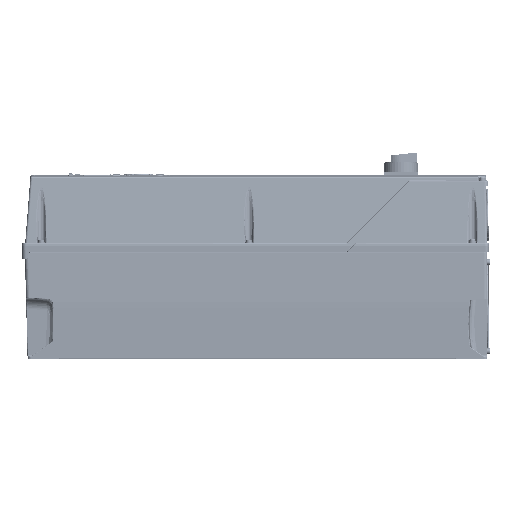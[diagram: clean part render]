
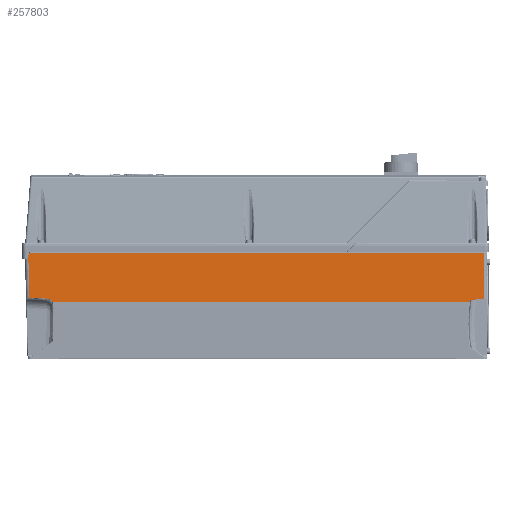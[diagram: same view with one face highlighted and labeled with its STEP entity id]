
A CAD part, left-side view. The second image highlights one B-rep face of the part: STEP entity #257803.
In plain terms, the highlighted planar face has unit normal (-1, 0, 0.024).
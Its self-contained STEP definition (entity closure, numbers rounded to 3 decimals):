
#23102=CARTESIAN_POINT('',(-119.098,318.091,
-2.488));
#65520=CARTESIAN_POINT('',(-120.686,-298.655,
-67.489));
#65527=CARTESIAN_POINT('',(-120.75,-297.88,
-70.105));
#65834=DIRECTION('',(0.001,0.998,0.061));
#65835=VECTOR('',#65834,25.514);
#65836=CARTESIAN_POINT('',(-120.645,291.007,
-65.824));
#65837=LINE('',#65836,#65835);
#65838=DIRECTION('',(0.024,0.026,0.999));
#65839=VECTOR('',#65838,61.818);
#65840=CARTESIAN_POINT('',(-120.607,316.473,
-64.266));
#65841=LINE('',#65840,#65839);
#65842=DIRECTION('',(0.,1.,0.));
#65843=VECTOR('',#65842,636.291);
#65844=CARTESIAN_POINT('',(-119.098,-318.2,
-2.488));
#65845=LINE('',#65844,#65843);
#65846=DIRECTION('',(-0.024,0.,-1.));
#65847=VECTOR('',#65846,63.825);
#65848=CARTESIAN_POINT('',(-119.098,-318.2,
-2.488));
#65849=LINE('',#65848,#65847);
#65850=CARTESIAN_POINT('',(-120.75,-297.88,
-70.105));
#65851=CARTESIAN_POINT('',(-120.75,-297.9,
-70.096));
#65852=CARTESIAN_POINT('',(-120.749,-297.936,
-70.069));
#65853=CARTESIAN_POINT('',(-120.747,-297.977,
-69.985));
#65854=CARTESIAN_POINT('',(-120.745,-298.011,
-69.906));
#65855=CARTESIAN_POINT('',(-120.743,-298.044,
-69.818));
#65856=CARTESIAN_POINT('',(-120.741,-298.077,
-69.725));
#65857=CARTESIAN_POINT('',(-120.738,-298.11,
-69.622));
#65858=CARTESIAN_POINT('',(-120.735,-298.145,
-69.508));
#65859=CARTESIAN_POINT('',(-120.732,-298.182,
-69.381));
#65860=CARTESIAN_POINT('',(-120.729,-298.221,
-69.242));
#65861=CARTESIAN_POINT('',(-120.725,-298.262,
-69.091));
#65862=CARTESIAN_POINT('',(-120.721,-298.304,
-68.931));
#65863=CARTESIAN_POINT('',(-120.717,-298.348,
-68.762));
#65864=CARTESIAN_POINT('',(-120.713,-298.392,
-68.587));
#65865=CARTESIAN_POINT('',(-120.708,-298.436,
-68.407));
#65866=CARTESIAN_POINT('',(-120.704,-298.481,
-68.223));
#65867=CARTESIAN_POINT('',(-120.699,-298.526,
-68.038));
#65868=CARTESIAN_POINT('',(-120.695,-298.57,
-67.853));
#65869=CARTESIAN_POINT('',(-120.69,-298.613,
-67.669));
#65870=CARTESIAN_POINT('',(-120.688,-298.641,
-67.549));
#65871=CARTESIAN_POINT('',(-120.686,-298.655,
-67.489));
#65873=DIRECTION('',(0.,1.,0.));
#65874=VECTOR('',#65873,582.019);
#65875=CARTESIAN_POINT('',(-120.75,-297.88,
-70.105));
#65876=LINE('',#65875,#65874);
#65877=CARTESIAN_POINT('',(-120.75,284.139,
-70.107));
#65878=CARTESIAN_POINT('',(-120.735,284.492,
-69.488));
#65879=CARTESIAN_POINT('',(-120.708,285.316,
-68.372));
#65880=CARTESIAN_POINT('',(-120.675,286.976,
-67.022));
#65881=CARTESIAN_POINT('',(-120.653,288.916,
-66.128));
#65882=CARTESIAN_POINT('',(-120.646,290.29,
-65.868));
#65883=CARTESIAN_POINT('',(-120.645,291.007,
-65.824));
#65899=DIRECTION('',(0.001,-0.998,0.061));
#65900=VECTOR('',#65899,19.582);
#65901=CARTESIAN_POINT('',(-120.686,-298.655,
-67.489));
#65902=LINE('',#65901,#65900);
#65907=CARTESIAN_POINT('',(-120.657,-318.2,-66.294));
#94712=VERTEX_POINT('',#23102);
#94714=CARTESIAN_POINT('',(-119.098,-318.2,
-2.488));
#94715=VERTEX_POINT('',#94714);
#95224=VERTEX_POINT('',#65527);
#95324=CARTESIAN_POINT('',(-120.645,291.007,
-65.824));
#95325=CARTESIAN_POINT('',(-120.607,316.473,
-64.266));
#95326=VERTEX_POINT('',#95324);
#95327=VERTEX_POINT('',#95325);
#95379=VERTEX_POINT('',#65520);
#100433=VERTEX_POINT('',#65907);
#100441=VERTEX_POINT('',#65877);
#257786=CARTESIAN_POINT('',(-120.75,-323.,-70.105));
#257787=DIRECTION('',(-1.,0.,0.024));
#257788=DIRECTION('',(0.024,0.,1.));
#257789=AXIS2_PLACEMENT_3D('',#257786,#257787,#257788);
#257790=PLANE('',#257789);
#257791=ORIENTED_EDGE('',*,*,#143438,.T.);
#257792=ORIENTED_EDGE('',*,*,#143526,.T.);
#257793=ORIENTED_EDGE('',*,*,#143588,.F.);
#257795=ORIENTED_EDGE('',*,*,#257794,.T.);
#257797=ORIENTED_EDGE('',*,*,#257796,.F.);
#257798=ORIENTED_EDGE('',*,*,#256856,.F.);
#257799=ORIENTED_EDGE('',*,*,#256874,.T.);
#257800=ORIENTED_EDGE('',*,*,#257778,.T.);
#257801=EDGE_LOOP('',(#257791,#257792,#257793,#257795,#257797,#257798,#257799,
#257800));
#257802=FACE_OUTER_BOUND('',#257801,.F.);
#65872=B_SPLINE_CURVE_WITH_KNOTS('',3,(#65850,#65851,#65852,#65853,#65854,
#65855,#65856,#65857,#65858,#65859,#65860,#65861,#65862,#65863,#65864,#65865,
#65866,#65867,#65868,#65869,#65870,#65871),.UNSPECIFIED.,.F.,.F.,(4,1,1,1,1,1,1,
1,1,1,1,1,1,1,1,1,1,1,1,4),(0.,0.053,0.105,
0.158,0.211,0.263,0.316,
0.368,0.421,0.474,0.526,
0.579,0.632,0.684,0.737,
0.789,0.842,0.895,0.947,1.),
.UNSPECIFIED.);
#65884=B_SPLINE_CURVE_WITH_KNOTS('',3,(#65877,#65878,#65879,#65880,#65881,
#65882,#65883),.UNSPECIFIED.,.F.,.F.,(4,1,1,1,4),(0.,0.25,0.5,0.75,
1.),.UNSPECIFIED.);
#143438=EDGE_CURVE('',#95326,#95327,#65837,.T.);
#143526=EDGE_CURVE('',#95327,#94712,#65841,.T.);
#143588=EDGE_CURVE('',#94715,#94712,#65845,.T.);
#256856=EDGE_CURVE('',#95224,#95379,#65872,.T.);
#256874=EDGE_CURVE('',#95224,#100441,#65876,.T.);
#257778=EDGE_CURVE('',#100441,#95326,#65884,.T.);
#257794=EDGE_CURVE('',#94715,#100433,#65849,.T.);
#257796=EDGE_CURVE('',#95379,#100433,#65902,.T.);
#257803=ADVANCED_FACE('',(#257802),#257790,.T.);
